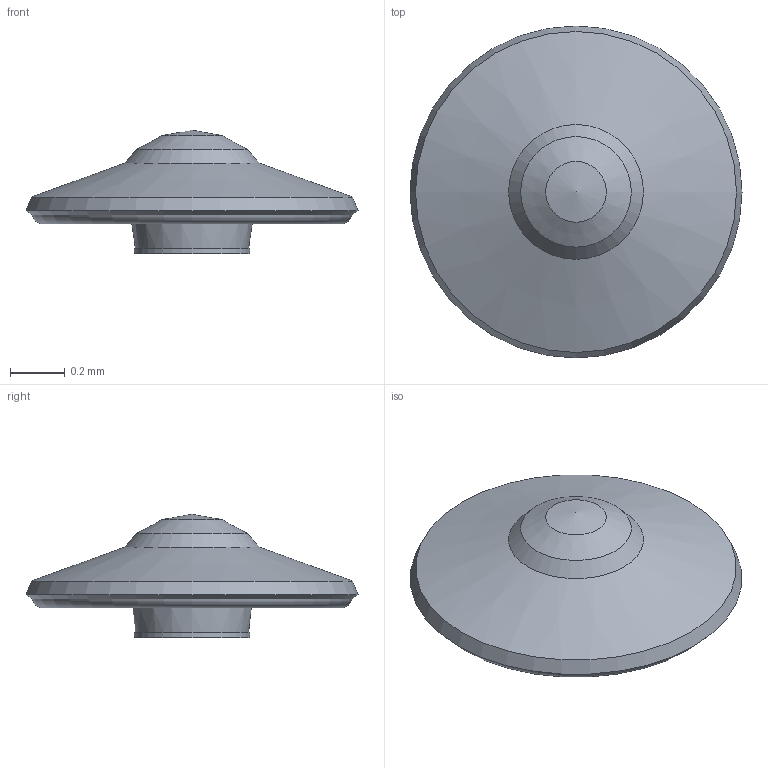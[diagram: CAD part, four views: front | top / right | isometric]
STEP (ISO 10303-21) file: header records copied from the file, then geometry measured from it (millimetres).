
FILE_DESCRIPTION(('Open CASCADE Model'),'2;1');
FILE_NAME('Open CASCADE Shape Model','2026-10-04T09:01:26',('Author'),( 'Open CASCADE'),'Open CASCADE STEP processor 7.9','Open CASCADE 7.9' ,'Unknown');
FILE_SCHEMA(('AUTOMOTIVE_DESIGN { 1 0 10303 214 1 1 1 1 }'));
Length unit declared in the file: millimetre
Products named in the file (18): SP-ALG-entry; capsule_backshell; nose; flexible_TPS; inflatable_torus_1; inflatable_torus_2; inflatable_torus_3; inflatable_torus_4; sample_drawer; sample_cassette_1; sample_cassette_2; sample_cassette_3; sample_cassette_4; optical_window; capsule_avionics_and_hold_battery; parachute_canister; recovery_beacon; separation_interface
Assembly tree (17 placements, depth 2):
  SP-ALG-entry
    capsule_backshell
    nose
    flexible_TPS
    inflatable_torus_1
    inflatable_torus_2
    inflatable_torus_3
    inflatable_torus_4
    sample_drawer
    sample_cassette_1
    sample_cassette_2
    sample_cassette_3
    sample_cassette_4
    optical_window
    capsule_avionics_and_hold_battery
    parachute_canister
    recovery_beacon
    separation_interface
Bounding box: 1.21 x 1.21 x 0.45 mm (x, y, z)
Volume: 0.2 mm3; surface area: 7 mm2
Topology: 17 solids, 17 shells, 68 faces, 123 edges, 78 vertices
Faces by surface type: plane 51, cone 8, cylinder 5, torus 4
Full cylindrical faces by diameter (mm): 0.04 x1, 0.14 x1, 0.423 x1, 0.491 x2
Entity records: 3669 total; most frequent: DIRECTION 563, CARTESIAN_POINT 530, LINE 332, VECTOR 332, ORIENTED_EDGE 244, PCURVE 244, DEFINITIONAL_REPRESENTATION 244, EDGE_CURVE 122
